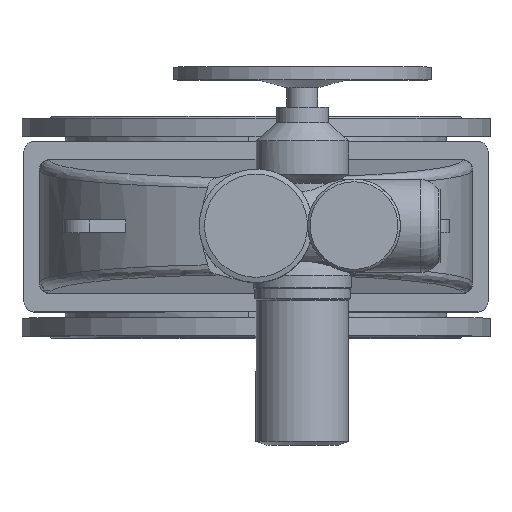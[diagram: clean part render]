
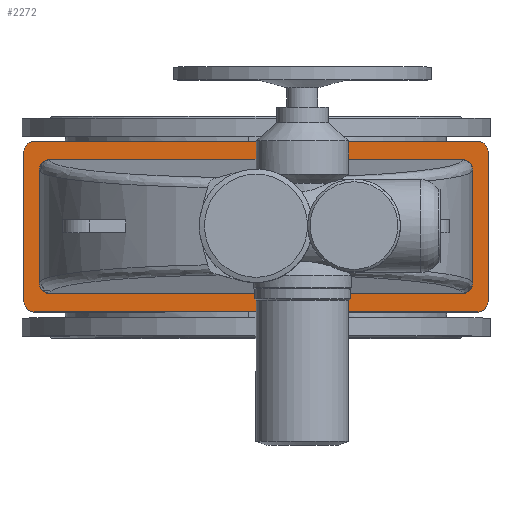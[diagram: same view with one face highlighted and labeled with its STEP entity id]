
A CAD part, top view. The second image highlights one B-rep face of the part: STEP entity #2272.
In plain terms, the highlighted planar face has unit normal (0, 0, 1).
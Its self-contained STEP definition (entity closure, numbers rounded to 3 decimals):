
#2272=ADVANCED_FACE('',(#7554,#7556),#7558,.T.);
#7554=FACE_BOUND('',#7555,.T.);
#7555=EDGE_LOOP('',(#10288,#10289,#10290,#10291,#10292,#10293,#10294,#10295));
#7556=FACE_BOUND('',#7557,.T.);
#7557=EDGE_LOOP('',(#10296,#10297,#10298,#10299,#10300,#10301,#10302,#10303));
#7558=PLANE('',#7559);
#7559=AXIS2_PLACEMENT_3D('',#7560,#7561,#7562);
#7560=CARTESIAN_POINT('',(0.,0.,866.));
#7561=DIRECTION('',(0.,-0.,1.));
#7562=DIRECTION('',(0.,1.,0.));
#10288=ORIENTED_EDGE('',*,*,#11368,.F.);
#10289=ORIENTED_EDGE('',*,*,#11381,.T.);
#10290=ORIENTED_EDGE('',*,*,#11380,.F.);
#10291=ORIENTED_EDGE('',*,*,#11378,.T.);
#10292=ORIENTED_EDGE('',*,*,#11376,.F.);
#10293=ORIENTED_EDGE('',*,*,#11374,.T.);
#10294=ORIENTED_EDGE('',*,*,#11372,.F.);
#10295=ORIENTED_EDGE('',*,*,#11369,.T.);
#10296=ORIENTED_EDGE('',*,*,#11382,.F.);
#10297=ORIENTED_EDGE('',*,*,#11383,.F.);
#10298=ORIENTED_EDGE('',*,*,#11384,.F.);
#10299=ORIENTED_EDGE('',*,*,#11385,.F.);
#10300=ORIENTED_EDGE('',*,*,#11386,.F.);
#10301=ORIENTED_EDGE('',*,*,#11387,.F.);
#10302=ORIENTED_EDGE('',*,*,#11388,.F.);
#10303=ORIENTED_EDGE('',*,*,#11389,.F.);
#11368=EDGE_CURVE('',#12594,#12592,#12596,.F.);
#11369=EDGE_CURVE('',#12597,#12592,#12598,.T.);
#11372=EDGE_CURVE('',#12597,#12600,#12602,.F.);
#11374=EDGE_CURVE('',#12603,#12600,#12605,.T.);
#11376=EDGE_CURVE('',#12603,#12606,#12608,.F.);
#11378=EDGE_CURVE('',#12609,#12606,#12611,.T.);
#11380=EDGE_CURVE('',#12609,#12612,#12614,.F.);
#11381=EDGE_CURVE('',#12594,#12612,#12615,.T.);
#11382=EDGE_CURVE('',#12616,#12617,#12618,.F.);
#11383=EDGE_CURVE('',#12619,#12616,#12620,.T.);
#11384=EDGE_CURVE('',#12621,#12619,#12622,.T.);
#11385=EDGE_CURVE('',#12623,#12621,#12624,.T.);
#11386=EDGE_CURVE('',#12625,#12623,#12626,.F.);
#11387=EDGE_CURVE('',#12627,#12625,#12628,.T.);
#11388=EDGE_CURVE('',#12629,#12627,#12630,.T.);
#11389=EDGE_CURVE('',#12617,#12629,#12631,.T.);
#12592=VERTEX_POINT('',#16255);
#12594=VERTEX_POINT('',#16259);
#12596=CIRCLE('',#16263,20.);
#12597=VERTEX_POINT('',#16267);
#12598=LINE('',#16268,#16269);
#12600=VERTEX_POINT('',#16274);
#12602=CIRCLE('',#16278,20.);
#12603=VERTEX_POINT('',#16282);
#12605=LINE('',#16286,#16287);
#12606=VERTEX_POINT('',#16289);
#12608=CIRCLE('',#16293,20.);
#12609=VERTEX_POINT('',#16297);
#12611=LINE('',#16301,#16302);
#12612=VERTEX_POINT('',#16304);
#12614=CIRCLE('',#16308,20.);
#12615=LINE('',#16312,#16313);
#12616=VERTEX_POINT('',#16315);
#12617=VERTEX_POINT('',#16316);
#12618=(BOUNDED_CURVE()B_SPLINE_CURVE(3,
(#16317,#16318,#16319,#16320),
.UNSPECIFIED.,.F.,.F.)B_SPLINE_CURVE_WITH_KNOTS((4,4),
(0.,1.),
.UNSPECIFIED.)CURVE()GEOMETRIC_REPRESENTATION_ITEM()RATIONAL_B_SPLINE_CURVE((1.,
0.805,0.805,1.))REPRESENTATION_ITEM(''));
#12619=VERTEX_POINT('',#16321);
#12620=LINE('',#16322,#16323);
#12621=VERTEX_POINT('',#16325);
#12622=(BOUNDED_CURVE()B_SPLINE_CURVE(3,
(#16326,#16327,#16328,#16329),
.UNSPECIFIED.,.F.,.F.)B_SPLINE_CURVE_WITH_KNOTS((4,4),
(0.,1.),
.UNSPECIFIED.)CURVE()GEOMETRIC_REPRESENTATION_ITEM()RATIONAL_B_SPLINE_CURVE((1.,
0.805,0.805,1.))REPRESENTATION_ITEM(''));
#12623=VERTEX_POINT('',#16330);
#12624=LINE('',#16331,#16332);
#12625=VERTEX_POINT('',#16334);
#12626=(BOUNDED_CURVE()B_SPLINE_CURVE(3,
(#16335,#16336,#16337,#16338),
.UNSPECIFIED.,.F.,.F.)B_SPLINE_CURVE_WITH_KNOTS((4,4),
(0.,1.),
.UNSPECIFIED.)CURVE()GEOMETRIC_REPRESENTATION_ITEM()RATIONAL_B_SPLINE_CURVE((1.,
0.805,0.805,1.))REPRESENTATION_ITEM(''));
#12627=VERTEX_POINT('',#16339);
#12628=LINE('',#16340,#16341);
#12629=VERTEX_POINT('',#16343);
#12630=(BOUNDED_CURVE()B_SPLINE_CURVE(3,
(#16344,#16345,#16346,#16347),
.UNSPECIFIED.,.F.,.F.)B_SPLINE_CURVE_WITH_KNOTS((4,4),
(0.,1.),
.UNSPECIFIED.)CURVE()GEOMETRIC_REPRESENTATION_ITEM()RATIONAL_B_SPLINE_CURVE((1.,
0.805,0.805,1.))REPRESENTATION_ITEM(''));
#12631=LINE('',#16348,#16349);
#16255=CARTESIAN_POINT('',(-450.,-145.,866.));
#16259=CARTESIAN_POINT('',(-430.,-165.,866.));
#16263=AXIS2_PLACEMENT_3D('',#16264,#16265,#16266);
#16264=CARTESIAN_POINT('',(-430.,-145.,866.));
#16265=DIRECTION('',(0.,-0.,1.));
#16266=DIRECTION('',(-1.,0.,0.));
#16267=CARTESIAN_POINT('',(-450.,145.,866.));
#16268=CARTESIAN_POINT('',(-450.,145.,866.));
#16269=VECTOR('',#16270,1.);
#16270=DIRECTION('',(0.,-1.,0.));
#16274=CARTESIAN_POINT('',(-430.,165.,866.));
#16278=AXIS2_PLACEMENT_3D('',#16279,#16280,#16281);
#16279=CARTESIAN_POINT('',(-430.,145.,866.));
#16280=DIRECTION('',(0.,-0.,1.));
#16281=DIRECTION('',(0.,1.,0.));
#16282=CARTESIAN_POINT('',(430.,165.,866.));
#16286=CARTESIAN_POINT('',(430.,165.,866.));
#16287=VECTOR('',#16288,1.);
#16288=DIRECTION('',(-1.,0.,0.));
#16289=CARTESIAN_POINT('',(450.,145.,866.));
#16293=AXIS2_PLACEMENT_3D('',#16294,#16295,#16296);
#16294=CARTESIAN_POINT('',(430.,145.,866.));
#16295=DIRECTION('',(0.,-0.,1.));
#16296=DIRECTION('',(1.,0.,0.));
#16297=CARTESIAN_POINT('',(450.,-145.,866.));
#16301=CARTESIAN_POINT('',(450.,-145.,866.));
#16302=VECTOR('',#16303,1.);
#16303=DIRECTION('',(0.,1.,0.));
#16304=CARTESIAN_POINT('',(430.,-165.,866.));
#16308=AXIS2_PLACEMENT_3D('',#16309,#16310,#16311);
#16309=CARTESIAN_POINT('',(430.,-145.,866.));
#16310=DIRECTION('',(0.,-0.,1.));
#16311=DIRECTION('',(0.,-1.,0.));
#16312=CARTESIAN_POINT('',(-430.,-165.,866.));
#16313=VECTOR('',#16314,1.);
#16314=DIRECTION('',(1.,0.,0.));
#16315=CARTESIAN_POINT('',(400.,-130.,866.));
#16316=CARTESIAN_POINT('',(420.,-109.924,866.));
#16317=CARTESIAN_POINT('',(420.,-109.924,866.));
#16318=CARTESIAN_POINT('',(420.,-121.684,866.));
#16319=CARTESIAN_POINT('',(411.716,-130.,866.));
#16320=CARTESIAN_POINT('',(400.,-130.,866.));
#16321=CARTESIAN_POINT('',(-400.,-130.,866.));
#16322=CARTESIAN_POINT('',(-400.,-130.,866.));
#16323=VECTOR('',#16324,1.);
#16324=DIRECTION('',(1.,0.,0.));
#16325=CARTESIAN_POINT('',(-420.,-109.924,866.));
#16326=CARTESIAN_POINT('',(-420.,-109.924,866.));
#16327=CARTESIAN_POINT('',(-420.,-121.684,866.));
#16328=CARTESIAN_POINT('',(-411.716,-130.,866.));
#16329=CARTESIAN_POINT('',(-400.,-130.,866.));
#16330=CARTESIAN_POINT('',(-420.,109.924,866.));
#16331=CARTESIAN_POINT('',(-420.,109.924,866.));
#16332=VECTOR('',#16333,1.);
#16333=DIRECTION('',(0.,-1.,0.));
#16334=CARTESIAN_POINT('',(-400.,130.,866.));
#16335=CARTESIAN_POINT('',(-420.,109.924,866.));
#16336=CARTESIAN_POINT('',(-420.,121.684,866.));
#16337=CARTESIAN_POINT('',(-411.716,130.,866.));
#16338=CARTESIAN_POINT('',(-400.,130.,866.));
#16339=CARTESIAN_POINT('',(400.,130.,866.));
#16340=CARTESIAN_POINT('',(400.,130.,866.));
#16341=VECTOR('',#16342,1.);
#16342=DIRECTION('',(-1.,0.,0.));
#16343=CARTESIAN_POINT('',(420.,109.924,866.));
#16344=CARTESIAN_POINT('',(420.,109.924,866.));
#16345=CARTESIAN_POINT('',(420.,121.684,866.));
#16346=CARTESIAN_POINT('',(411.716,130.,866.));
#16347=CARTESIAN_POINT('',(400.,130.,866.));
#16348=CARTESIAN_POINT('',(420.,-109.924,866.));
#16349=VECTOR('',#16350,1.);
#16350=DIRECTION('',(0.,1.,0.));
